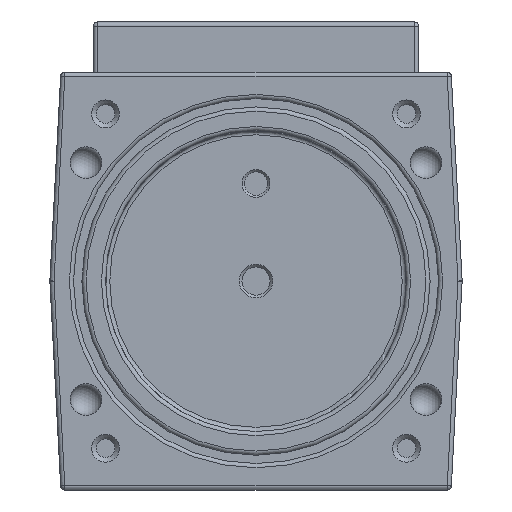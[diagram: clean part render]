
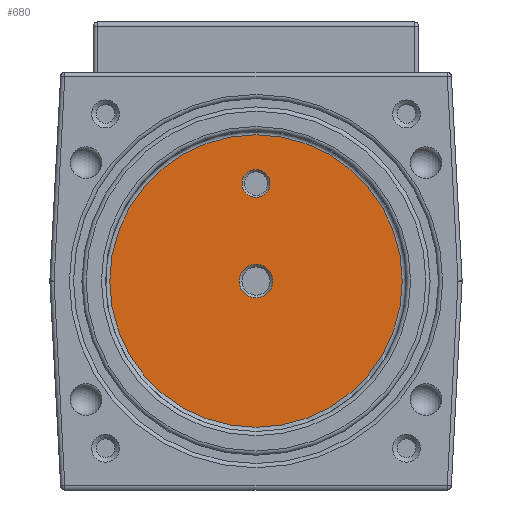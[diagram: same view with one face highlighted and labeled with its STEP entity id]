
A CAD part, front view. The second image highlights one B-rep face of the part: STEP entity #680.
In plain terms, the highlighted planar face has unit normal (0, -1, 0).
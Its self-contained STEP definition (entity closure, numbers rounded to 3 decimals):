
#680=ADVANCED_FACE('',(#2262,#2264,#2266),#2268,.T.);
#2262=FACE_BOUND('',#2263,.T.);
#2263=EDGE_LOOP('',(#3697));
#2264=FACE_BOUND('',#2265,.T.);
#2265=EDGE_LOOP('',(#3698));
#2266=FACE_BOUND('',#2267,.T.);
#2267=EDGE_LOOP('',(#3699));
#2268=PLANE('',#2269);
#2269=AXIS2_PLACEMENT_3D('',#2270,#2271,#2272);
#2270=CARTESIAN_POINT('',(0.,210.,0.));
#2271=DIRECTION('',(0.,-1.,0.));
#2272=DIRECTION('',(0.,0.,-1.));
#3697=ORIENTED_EDGE('',*,*,#4296,.F.);
#3698=ORIENTED_EDGE('',*,*,#4297,.T.);
#3699=ORIENTED_EDGE('',*,*,#4298,.T.);
#4296=EDGE_CURVE('',#4722,#4722,#4723,.T.);
#4297=EDGE_CURVE('',#4724,#4724,#4725,.F.);
#4298=EDGE_CURVE('',#4726,#4726,#4727,.F.);
#4722=VERTEX_POINT('',#5626);
#4723=CIRCLE('',#5627,52.5);
#4724=VERTEX_POINT('',#5631);
#4725=CIRCLE('',#5632,6.);
#4726=VERTEX_POINT('',#5636);
#4727=CIRCLE('',#5637,5.);
#5626=CARTESIAN_POINT('',(0.,210.,-52.5));
#5627=AXIS2_PLACEMENT_3D('',#5628,#5629,#5630);
#5628=CARTESIAN_POINT('',(0.,210.,0.));
#5629=DIRECTION('',(0.,1.,0.));
#5630=DIRECTION('',(0.,0.,-1.));
#5631=CARTESIAN_POINT('',(6.,210.,0.));
#5632=AXIS2_PLACEMENT_3D('',#5633,#5634,#5635);
#5633=CARTESIAN_POINT('',(0.,210.,0.));
#5634=DIRECTION('',(0.,-1.,0.));
#5635=DIRECTION('',(1.,0.,0.));
#5636=CARTESIAN_POINT('',(5.,210.,35.));
#5637=AXIS2_PLACEMENT_3D('',#5638,#5639,#5640);
#5638=CARTESIAN_POINT('',(0.,210.,35.));
#5639=DIRECTION('',(0.,-1.,0.));
#5640=DIRECTION('',(1.,0.,0.));
